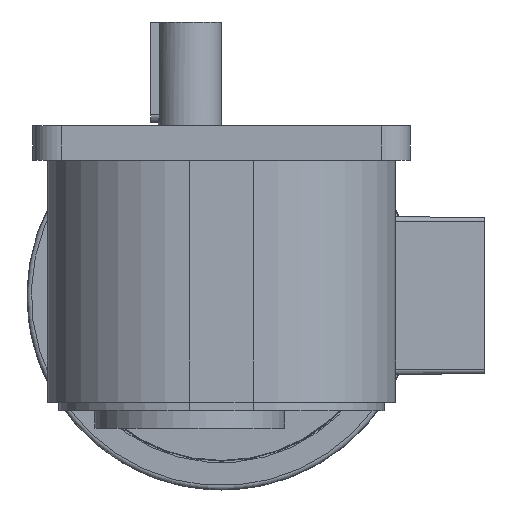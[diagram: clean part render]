
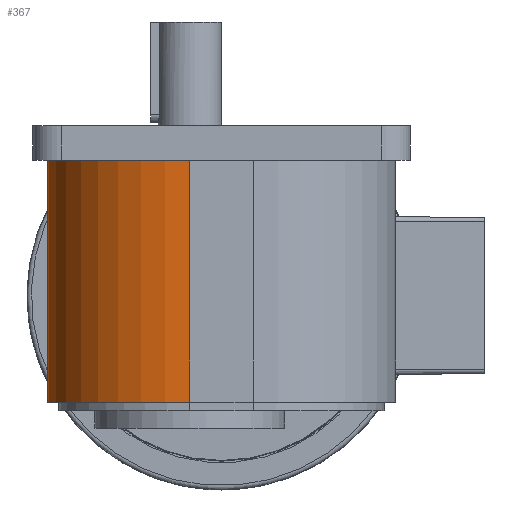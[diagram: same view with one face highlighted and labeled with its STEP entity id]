
A CAD part, left-side view. The second image highlights one B-rep face of the part: STEP entity #367.
In plain terms, the highlighted cylindrical face has radius 49.5 mm (diameter 99 mm), a partial arc.
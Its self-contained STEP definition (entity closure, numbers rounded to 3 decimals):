
#367 = ADVANCED_FACE( '', ( #1141 ), #1142, .T. );
#1141 = FACE_OUTER_BOUND( '', #2778, .T. );
#1142 = CYLINDRICAL_SURFACE( '', #2779, 49.5 );
#2778 = EDGE_LOOP( '', ( #4787, #4788, #4789, #4790 ) );
#2779 = AXIS2_PLACEMENT_3D( '', #4791, #4792, #4793 );
#4787 = ORIENTED_EDGE( '', *, *, #9810, .F. );
#4788 = ORIENTED_EDGE( '', *, *, #9811, .F. );
#4789 = ORIENTED_EDGE( '', *, *, #9800, .T. );
#4790 = ORIENTED_EDGE( '', *, *, #9812, .T. );
#4791 = CARTESIAN_POINT( '', ( -96., 0., 0. ) );
#4792 = DIRECTION( '', ( -1., 0., 0. ) );
#4793 = DIRECTION( '', ( 0., 0., -1. ) );
#9800 = EDGE_CURVE( '', #11595, #11592, #11596, .T. );
#9810 = EDGE_CURVE( '', #11613, #11614, #11615, .T. );
#9811 = EDGE_CURVE( '', #11595, #11613, #11616, .T. );
#9812 = EDGE_CURVE( '', #11592, #11614, #11617, .T. );
#11592 = VERTEX_POINT( '', #14444 );
#11595 = VERTEX_POINT( '', #14448 );
#11596 = CIRCLE( '', #14449, 49.5 );
#11613 = VERTEX_POINT( '', #14472 );
#11614 = VERTEX_POINT( '', #14473 );
#11615 = CIRCLE( '', #14474, 49.5 );
#11616 = LINE( '', #14475, #14476 );
#11617 = LINE( '', #14477, #14478 );
#14444 = CARTESIAN_POINT( '', ( -96., 0., 49.5 ) );
#14448 = CARTESIAN_POINT( '', ( -96., 49.5, 0. ) );
#14449 = AXIS2_PLACEMENT_3D( '', #26818, #26819, #26820 );
#14472 = CARTESIAN_POINT( '', ( -12., 49.5, 0. ) );
#14473 = CARTESIAN_POINT( '', ( -12., 0., 49.5 ) );
#14474 = AXIS2_PLACEMENT_3D( '', #26836, #26837, #26838 );
#14475 = CARTESIAN_POINT( '', ( -96., 49.5, 0. ) );
#14476 = VECTOR( '', #26839, 1000. );
#14477 = CARTESIAN_POINT( '', ( -96., 0., 49.5 ) );
#14478 = VECTOR( '', #26840, 1000. );
#26818 = CARTESIAN_POINT( '', ( -96., 0., 0. ) );
#26819 = DIRECTION( '', ( 1., 0., 0. ) );
#26820 = DIRECTION( '', ( 0., 0., -1. ) );
#26836 = CARTESIAN_POINT( '', ( -12., 0., 0. ) );
#26837 = DIRECTION( '', ( 1., 0., 0. ) );
#26838 = DIRECTION( '', ( 0., 0., -1. ) );
#26839 = DIRECTION( '', ( 1., 0., 0. ) );
#26840 = DIRECTION( '', ( 1., 0., 0. ) );
